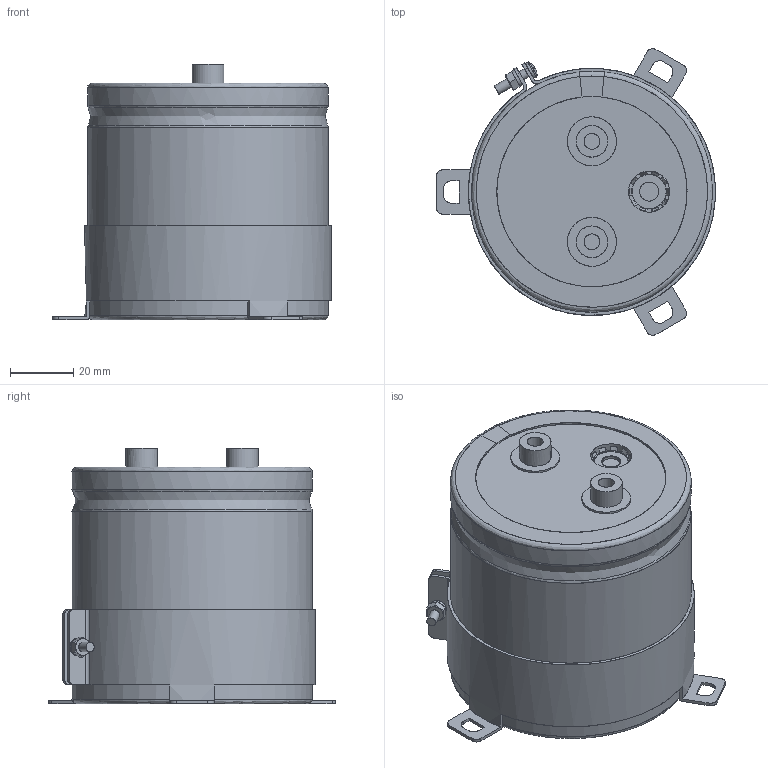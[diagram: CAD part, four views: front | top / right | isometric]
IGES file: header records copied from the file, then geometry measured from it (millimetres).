
Start section: JAMA-IS VERSION  1.0
Bounding box: 88.3 x 90.75 x 81 mm (x, y, z)
Surface area: 84292.7 mm2 (no closed solid volume)
Topology: 0 solids, 0 shells, 259 faces, 4448 edges, 4417 vertices
Faces by surface type: bspline 259
